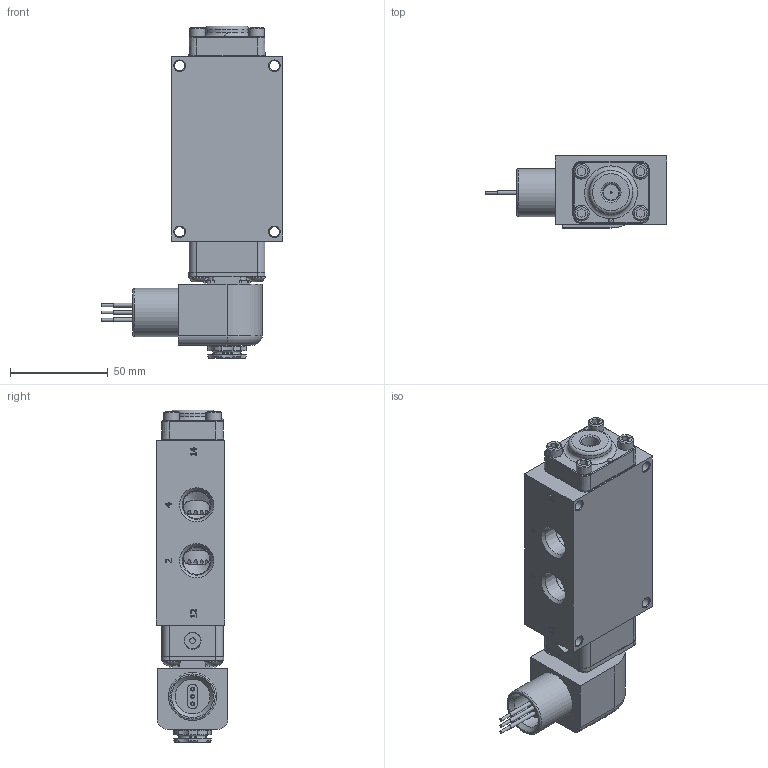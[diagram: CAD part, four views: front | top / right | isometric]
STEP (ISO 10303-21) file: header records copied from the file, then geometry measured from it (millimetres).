
FILE_DESCRIPTION(/* description */ (''),/* implementation_level */ '2;1');
FILE_NAME(/* name */ 'ZESR3XCZ.stp',/* time_stamp */ '2026-09-21T11:44:51-04:00',/* author */ ('rmckenna'),/* organization */ (''),/* preprocessor_version */ 'ST-DEVELOPER v20.2',/* originating_system */ 'Autodesk Inventor 2027',/* authorisation */ '');
FILE_SCHEMA (('AUTOMOTIVE_DESIGN { 1 0 10303 214 3 1 1 }'));
Products named in the file (1): Part96
Bounding box: 92.94 x 36.57 x 169.67 mm (x, y, z)
Volume: 237149.1 mm3; surface area: 73136 mm2
Topology: 1 solids, 19 shells, 1553 faces, 3829 edges, 2438 vertices
Faces by surface type: plane 699, cylinder 377, cone 268, torus 121, bspline 83, sphere 5
Full cylindrical faces by diameter (mm): 1.016 x1, 1.168 x10, 1.3 x1, 1.397 x1, 1.5 x1, 1.524 x3, 2.032 x11, 2.35 x4, 2.8 x1, 2.819 x1, 3 x4, 3.048 x1, 3.175 x1, 3.4 x1, 3.683 x9, 4.191 x2, 4.394 x1, 4.826 x8, 4.953 x1, 5.08 x1, 5.15 x4, 5.156 x12, 5.5 x1, 6.553 x1, 7.29 x1, 7.938 x4, 7.95 x1, 8 x2, 8.052 x1, 8.433 x1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
Entity records: 51901 total; most frequent: CARTESIAN_POINT 13490, ORIENTED_EDGE 7632, DIRECTION 7591, EDGE_CURVE 3816, AXIS2_PLACEMENT_3D 2825, VERTEX_POINT 2436, LINE 1941, VECTOR 1941
